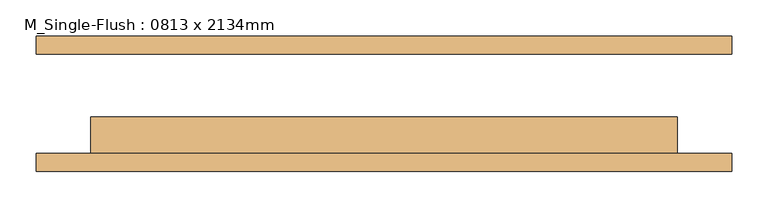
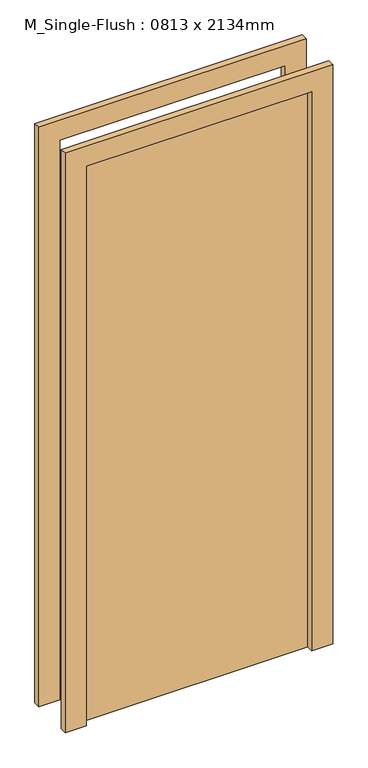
"""IFC4 building model written with IfcOpenShell, lengths in millimetres: door geometry, M_Single-Flush : 0813 x 2134mm."""

from ifc_helpers import new_model, si_unit, frame, origin, origin_with_axes, place, context, project, spatial, polyline, outline, extrude, source, transform, mapped, element, save


def m_single_flush_0813_x_2134mm_bf4bb56d(model_context):
    return source(origin(), model_context, "Body", "SweptSolid", [
        extrude(outline(polyline([(2210.0, -482.5), (0.0, -482.5), (0.0, -406.5), (2134.0, -406.5), (2134.0, 406.5), (0.0, 406.5), (0.0, 482.5), (2210.0, 482.5), (2210.0, -482.5)])), frame((0.0, -94.25, 0.0), z_axis=(0.0, 1.0, 0.0), x_axis=(0.0, 0.0, 1.0)), (0.0, 0.0, 1.0), 25.0),
        extrude(outline(polyline([(2210.0, 482.5), (2210.0, -482.5), (0.0, -482.5), (0.0, -406.5), (2134.0, -406.5), (2134.0, 406.5), (0.0, 406.5), (0.0, 482.5), (2210.0, 482.5)])), frame((0.0, 69.25, 0.0), z_axis=(0.0, 1.0, 0.0), x_axis=(0.0, 0.0, 1.0)), (0.0, 0.0, 1.0), 25.0),
        extrude(outline(polyline([(406.5, -18.25), (406.5, -69.25), (-406.5, -69.25), (-406.5, -18.25), (406.5, -18.25)])), origin_with_axes(), (0.0, 0.0, 1.0), 2134.0),
    ])


if __name__ == "__main__":
    model = new_model("IFC4")
    model_context = context("Model", 3, world=origin())
    ifc_project = project(units=[si_unit("LENGTHUNIT", "METRE", prefix="MILLI")], contexts=[model_context])
    site = spatial("IfcSite", under=ifc_project)
    building = spatial("IfcBuilding", under=site)
    placement = place(None, origin())
    m_single_flush_0813_x_2134mm_shape = m_single_flush_0813_x_2134mm_bf4bb56d(model_context)
    element("IfcDoor", 1, ObjectType="M_Single-Flush : 0813 x 2134mm", at=placement, inside=building, context=model_context, shape_type="MappedRepresentation", body=[
        mapped(m_single_flush_0813_x_2134mm_shape, transform((0.0, 0.0, 0.0), x_axis=(1.0, 0.0, 0.0), y_axis=(0.0, 1.0, 0.0), z_axis=(0.0, 0.0, 1.0))),
    ])
    save(model, "model.ifc")
